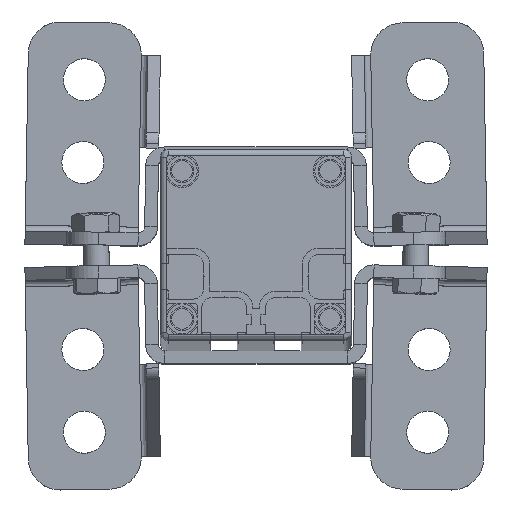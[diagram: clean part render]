
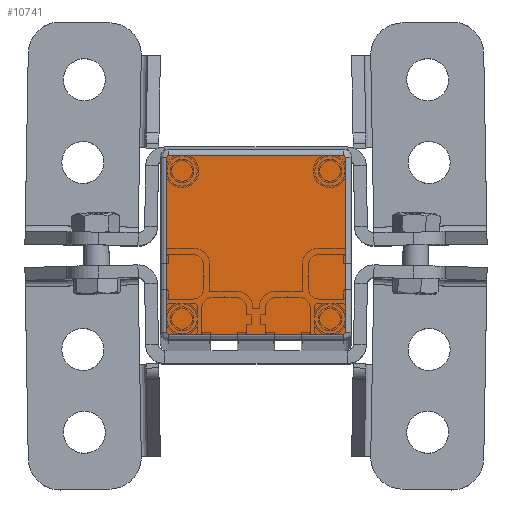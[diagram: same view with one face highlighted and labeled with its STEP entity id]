
A CAD part, top view. The second image highlights one B-rep face of the part: STEP entity #10741.
In plain terms, the highlighted planar face has unit normal (0, 0, 1).
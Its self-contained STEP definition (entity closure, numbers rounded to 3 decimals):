
#853=FACE_OUTER_BOUND('',#1464,.T.);
#1464=EDGE_LOOP('',(#8632,#8633,#8634,#8635,#8636,#8637,#8638,#8639));
#1995=CIRCLE('',#11707,0.5);
#1996=CIRCLE('',#11708,0.5);
#1997=CIRCLE('',#11709,0.5);
#1998=CIRCLE('',#11710,0.5);
#2770=LINE('',#17865,#3701);
#2771=LINE('',#17869,#3702);
#2772=LINE('',#17873,#3703);
#2773=LINE('',#17876,#3704);
#3701=VECTOR('',#14209,55.);
#3702=VECTOR('',#14212,55.);
#3703=VECTOR('',#14215,55.);
#3704=VECTOR('',#14218,55.);
#4753=VERTEX_POINT('',#17861);
#4754=VERTEX_POINT('',#17862);
#4755=VERTEX_POINT('',#17864);
#4756=VERTEX_POINT('',#17866);
#4757=VERTEX_POINT('',#17868);
#4758=VERTEX_POINT('',#17870);
#4759=VERTEX_POINT('',#17872);
#4760=VERTEX_POINT('',#17874);
#6119=EDGE_CURVE('',#4753,#4754,#1995,.T.);
#6120=EDGE_CURVE('',#4754,#4755,#2770,.T.);
#6121=EDGE_CURVE('',#4755,#4756,#1996,.T.);
#6122=EDGE_CURVE('',#4756,#4757,#2771,.T.);
#6123=EDGE_CURVE('',#4757,#4758,#1997,.T.);
#6124=EDGE_CURVE('',#4758,#4759,#2772,.T.);
#6125=EDGE_CURVE('',#4759,#4760,#1998,.T.);
#6126=EDGE_CURVE('',#4760,#4753,#2773,.T.);
#8632=ORIENTED_EDGE('',*,*,#6119,.T.);
#8633=ORIENTED_EDGE('',*,*,#6120,.T.);
#8634=ORIENTED_EDGE('',*,*,#6121,.T.);
#8635=ORIENTED_EDGE('',*,*,#6122,.T.);
#8636=ORIENTED_EDGE('',*,*,#6123,.T.);
#8637=ORIENTED_EDGE('',*,*,#6124,.T.);
#8638=ORIENTED_EDGE('',*,*,#6125,.T.);
#8639=ORIENTED_EDGE('',*,*,#6126,.T.);
#9738=PLANE('',#11706);
#10741=ADVANCED_FACE('',(#853),#9738,.F.);
#11706=AXIS2_PLACEMENT_3D('',#17860,#14205,#14206);
#11707=AXIS2_PLACEMENT_3D('',#17863,#14207,#14208);
#11708=AXIS2_PLACEMENT_3D('',#17867,#14210,#14211);
#11709=AXIS2_PLACEMENT_3D('',#17871,#14213,#14214);
#11710=AXIS2_PLACEMENT_3D('',#17875,#14216,#14217);
#14205=DIRECTION('center_axis',(0.,0.,-1.));
#14206=DIRECTION('ref_axis',(-1.,0.,0.));
#14207=DIRECTION('center_axis',(0.,0.,1.));
#14208=DIRECTION('ref_axis',(-1.,0.,0.));
#14209=DIRECTION('',(-1.,0.,0.));
#14210=DIRECTION('center_axis',(0.,0.,1.));
#14211=DIRECTION('ref_axis',(-1.,0.,0.));
#14212=DIRECTION('',(0.,-1.,0.));
#14213=DIRECTION('center_axis',(0.,0.,1.));
#14214=DIRECTION('ref_axis',(-1.,0.,0.));
#14215=DIRECTION('',(1.,0.,0.));
#14216=DIRECTION('center_axis',(0.,0.,1.));
#14217=DIRECTION('ref_axis',(-1.,0.,0.));
#14218=DIRECTION('',(0.,1.,0.));
#17860=CARTESIAN_POINT('Origin',(30.8,-30.8,1993.));
#17861=CARTESIAN_POINT('',(28.,27.5,1993.));
#17862=CARTESIAN_POINT('',(27.5,28.,1993.));
#17863=CARTESIAN_POINT('Origin',(27.5,27.5,1993.));
#17864=CARTESIAN_POINT('',(-27.5,28.,1993.));
#17865=CARTESIAN_POINT('',(27.5,28.,1993.));
#17866=CARTESIAN_POINT('',(-28.,27.5,1993.));
#17867=CARTESIAN_POINT('Origin',(-27.5,27.5,1993.));
#17868=CARTESIAN_POINT('',(-28.,-27.5,1993.));
#17869=CARTESIAN_POINT('',(-28.,27.5,1993.));
#17870=CARTESIAN_POINT('',(-27.5,-28.,1993.));
#17871=CARTESIAN_POINT('Origin',(-27.5,-27.5,1993.));
#17872=CARTESIAN_POINT('',(27.5,-28.,1993.));
#17873=CARTESIAN_POINT('',(-27.5,-28.,1993.));
#17874=CARTESIAN_POINT('',(28.,-27.5,1993.));
#17875=CARTESIAN_POINT('Origin',(27.5,-27.5,1993.));
#17876=CARTESIAN_POINT('',(28.,-27.5,1993.));
